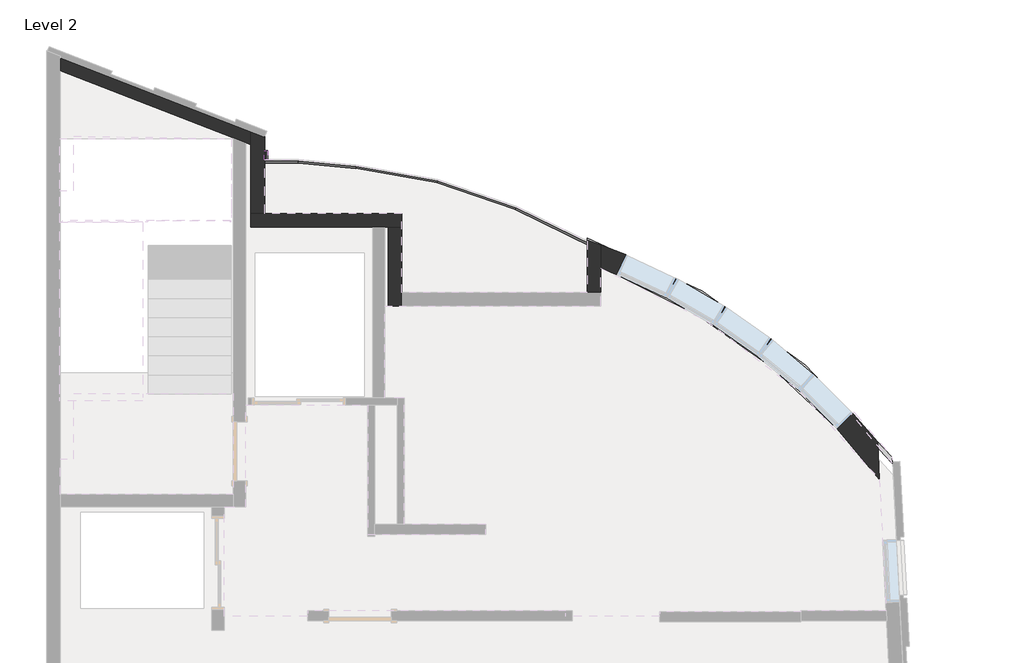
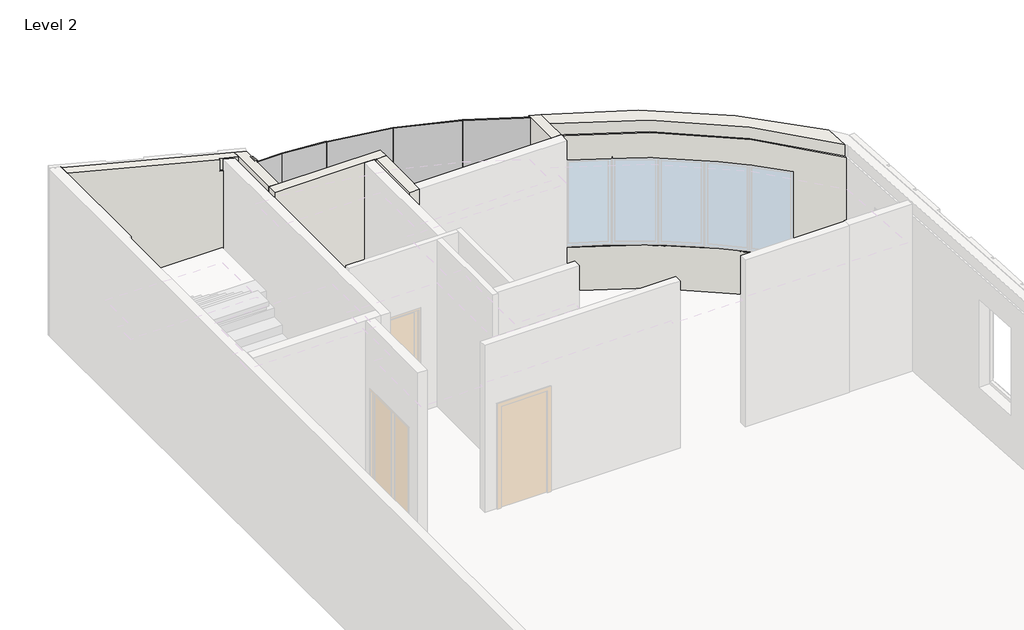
# One storey, part 4 of 5: 7 walls, 5 plates, 3 proxies.
"""IFC4 building model written with IfcOpenShell, lengths in millimetres."""

from ifc_helpers import new_model, si_unit, point, frame, frame_2d, origin, place, context, project, spatial, polyline, circle_curve, trimmed, segment, composite_curve, outline, extrude, faceted_brep, transform, mapped, element, save
from ifc_brep_helpers import plane_surface, cylinder_surface, revolved_surface, advanced_brep
from components import system_panel_glazed_224d79fb, system_panel_glazed_0fb09b64, system_panel_glazed_2140e779, system_panel_glazed_0c0ff7ba

model = new_model("IFC4")

# Units and contexts
model_context = context("Model", 3, world=origin())
ifc_project = project(units=[si_unit("LENGTHUNIT", "METRE", prefix="MILLI")], contexts=[model_context])

# Site, building, storey
site = spatial("IfcSite", under=ifc_project)
building = spatial("IfcBuilding", under=site)
storey = spatial("IfcBuildingStorey", under=building, Name="Level 2", Elevation=8000.0)

# Proxies
placement = place(None, origin())
element("IfcBuildingElementProxy", 1, Name="Reveal", ObjectType="Reveal", at=placement, inside=storey, context=model_context, shape_type="SweptSolid", body=[
    extrude(outline(composite_curve([segment(trimmed(circle_curve(frame_2d((4535.6080259, 3399.2748166)), 9525.0), [point((12124.5482533, 9155.45508))], [point((7662.3072504, 12396.4619859))], True, "CARTESIAN"), True, "CONTINUOUS"), segment(polyline([(7662.3072504, 12396.4619859), (7662.3072504, 12449.3785154)]), True, "CONTINUOUS"), segment(trimmed(circle_curve(frame_2d((4535.6080259, 3399.2748166)), 9575.0), [point((7662.3072504, 12449.3785154))], [point((12120.0590293, 9243.6505726))], False, "CARTESIAN"), True, "CONTINUOUS"), segment(polyline([(12120.0590293, 9243.6505726), (12124.5482533, 9155.45508)]), True, "CONTINUOUS")], self_intersect=False)), frame((0.0, 0.0, 8875.0), z_axis=(0.0, 0.0, 1.0), x_axis=(1.0, 0.0, 0.0)), (0.0, 0.0, 1.0), 50.0),
])
element("IfcBuildingElementProxy", 2, Name="Reveal", ObjectType="Reveal", at=placement, inside=storey, context=model_context, shape_type="SweptSolid", body=[
    extrude(outline(polyline([(2938.093022, 13732.1068799), (2988.093022, 13732.1068799), (2988.093022, 13599.3570533), (2938.093022, 13599.3570533), (2938.093022, 13732.1068799)])), frame((0.0, 0.0, 10635.0), z_axis=(0.0, 0.0, 1.0), x_axis=(1.0, 0.0, 0.0)), (0.0, 0.0, 1.0), 50.0),
])
element("IfcBuildingElementProxy", 3, Name="Reveal", ObjectType="Reveal", at=placement, inside=storey, context=model_context, shape_type="SweptSolid", body=[
    extrude(outline(polyline([(2938.093022, 13732.1068799), (2988.093022, 13732.1068799), (2988.093022, 13599.3570533), (2938.093022, 13599.3570533), (2938.093022, 13732.1068799)])), frame((0.0, 0.0, 8875.0), z_axis=(0.0, 0.0, 1.0), x_axis=(1.0, 0.0, 0.0)), (0.0, 0.0, 1.0), 50.0),
])

# Plates
system_panel_glazed_shape = system_panel_glazed_224d79fb(model_context)
element("IfcPlate", 4, ObjectType="System Panel : Glazed", at=placement, inside=storey, context=model_context, shape_type="MappedRepresentation", body=[
    mapped(system_panel_glazed_shape, transform((6054.0124771, 13110.8072352, 8000.0), x_axis=(-0.9455185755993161, 0.32556815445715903, 0.0), y_axis=(-0.32556815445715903, -0.9455185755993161, 0.0), z_axis=(0.0, 0.0, 1.0))),
])
element("IfcPlate", 5, ObjectType="System Panel : Glazed", at=placement, inside=storey, context=model_context, shape_type="MappedRepresentation", body=[
    mapped(system_panel_glazed_shape, transform((4876.5134167, 13415.3291978, 8000.0), x_axis=(-0.9848077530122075, 0.17364817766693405, 0.0), y_axis=(-0.17364817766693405, -0.9848077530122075, 0.0), z_axis=(0.0, 0.0, 1.0))),
])
system_panel_glazed_2_shape = system_panel_glazed_0fb09b64(model_context)
element("IfcPlate", 6, ObjectType="System Panel : Glazed", at=placement, inside=storey, context=model_context, shape_type="MappedRepresentation", body=[
    mapped(system_panel_glazed_2_shape, transform((3856.9795559, 13560.3058198, 8000.0), x_axis=(-0.9956808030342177, 0.09284254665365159, 0.0), y_axis=(-0.09284254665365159, -0.9956808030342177, 0.0), z_axis=(0.0, 0.0, 1.0))),
])
system_panel_glazed_3_shape = system_panel_glazed_2140e779(model_context)
element("IfcPlate", 7, ObjectType="System Panel : Glazed", at=placement, inside=storey, context=model_context, shape_type="MappedRepresentation", body=[
    mapped(system_panel_glazed_3_shape, transform((3189.0685843, 13599.3570533, 8000.0), x_axis=(-1.0, 0.0, 0.0), y_axis=(0.0, -1.0, 0.0), z_axis=(0.0, 0.0, 1.0))),
])
system_panel_glazed_4_shape = system_panel_glazed_0c0ff7ba(model_context)
element("IfcPlate", 8, ObjectType="System Panel : Glazed", at=placement, inside=storey, context=model_context, shape_type="MappedRepresentation", body=[
    mapped(system_panel_glazed_4_shape, transform((7196.5430293, 12636.269013, 8000.0), x_axis=(-0.8987940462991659, 0.43837114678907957, 0.0), y_axis=(-0.43837114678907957, -0.8987940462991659, 0.0), z_axis=(0.0, 0.0, 1.0))),
])

# Walls
element("IfcWall", 9, ObjectType="Generic - 20cm-gypsum-kamposite", at=placement, inside=storey, context=model_context, shape_type="AdvancedBrep", body=[
    advanced_brep(
    [(11908.3121492, 9469.3435074, 11500.0), (7862.3072504, 12351.1222388, 11500.0), (7862.3072504, 12041.0727933, 11500.0), (11933.8152789, 8968.3078963, 11500.0), (7862.3072504, 12351.1222388, 8000.0), (11908.3121492, 9469.3435074, 8000.0), (11936.5482631, 8914.6155682, 8000.0), (7862.3072504, 12008.9189597, 8000.0), (11908.3121492, 9469.3435074, 10745.0), (11544.8906493, 9885.6032931, 10745.0), (11544.8906493, 9885.6032931, 10730.0), (10356.3701317, 10970.353241, 10730.0), (10356.3701317, 10970.353241, 10745.0), (10349.7211648, 10975.4604273, 10745.0), (10349.7211648, 10975.4604273, 10730.0), (9682.5839736, 11443.5981936, 10730.0), (9682.5839736, 11443.5981936, 10745.0), (9675.5092952, 11448.1203824, 10745.0), (9675.5092952, 11448.1203824, 10730.0), (8970.5270255, 11857.0519163, 10730.0), (8970.5270255, 11857.0519163, 10745.0), (8958.907306, 11863.1346618, 10745.0), (8958.907306, 11863.1346618, 10730.0), (8221.1493402, 12209.4555878, 10730.0), (8221.1493402, 12209.4555878, 10745.0), (7862.3072504, 12351.1222388, 10745.0), (7862.3072504, 12351.1222388, 8875.0), (11908.3121492, 9469.3435074, 8875.0), (11908.3121492, 9469.3435074, 8925.0), (11544.8906493, 9885.6032931, 8925.0), (11544.8906493, 9885.6032931, 10695.0), (11908.3121492, 9469.3435074, 10695.0), (8221.1493402, 12209.4555878, 8925.0), (7862.3072504, 12351.1222388, 8925.0), (7862.3072504, 12351.1222388, 10695.0), (8221.1493402, 12209.4555878, 10695.0), (10356.3701317, 10970.353241, 8925.0), (10349.7211648, 10975.4604273, 8925.0), (10349.7211648, 10975.4604273, 10695.0), (10356.3701317, 10970.353241, 10695.0), (9682.5839736, 11443.5981936, 8925.0), (9675.5092952, 11448.1203824, 8925.0), (9675.5092952, 11448.1203824, 10695.0), (9682.5839736, 11443.5981936, 10695.0), (8970.5270255, 11857.0519163, 8925.0), (8958.907306, 11863.1346618, 8925.0), (8958.907306, 11863.1346618, 10695.0), (8970.5270255, 11857.0519163, 10695.0), (11936.5482631, 8914.6155682, 11259.0), (7862.3072504, 12008.9189597, 11259.0), (8085.0423074, 11919.5105106, 8900.0), (8085.0423074, 11919.5105106, 10730.0), (11319.3000133, 9658.2222537, 10730.0), (11319.3000133, 9658.2222537, 8900.0), (11910.4512496, 9427.3186475, 8875.0), (11910.4512496, 9427.3186475, 8925.0), (11910.4512496, 9427.3186475, 10695.0), (11910.4512496, 9427.3186475, 10745.0), (11933.8152789, 8968.3078963, 11259.0), (11527.266896, 9867.8396686, 10730.0), (11527.266896, 9867.8396686, 10695.0), (11527.266896, 9867.8396686, 8925.0), (11527.266896, 9867.8396686, 8900.0), (10335.3479854, 10954.9773917, 10730.0), (10293.8645813, 10895.8599189, 10730.0), (10340.2860207, 10951.1844014, 10730.0), (8210.516289, 12186.8042907, 10730.0), (8948.2742549, 11840.4833647, 10730.0), (8894.6346191, 11726.2163204, 10730.0), (8957.9716481, 11835.4069275, 10730.0), (9662.9539178, 11426.4753937, 10730.0), (9626.6451976, 11363.8805536, 10730.0), (9668.2107942, 11423.1151579, 10730.0), (10293.8645813, 10895.8599189, 8900.0), (10340.2860207, 10951.1844014, 8900.0), (10340.2860207, 10951.1844014, 8925.0), (10340.2860207, 10951.1844014, 10695.0), (10335.3479854, 10954.9773917, 8900.0), (9668.2107942, 11423.1151579, 8900.0), (9626.6451976, 11363.8805536, 8900.0), (9662.9539178, 11426.4753937, 8900.0), (8957.9716481, 11835.4069275, 8900.0), (8894.6346191, 11726.2163204, 8900.0), (8948.2742549, 11840.4833647, 8900.0), (8210.516289, 12186.8042907, 8900.0), (10335.3479854, 10954.9773917, 10695.0), (10335.3479854, 10954.9773917, 8925.0), (9668.2107942, 11423.1151579, 8925.0), (9668.2107942, 11423.1151579, 10695.0), (9662.9539178, 11426.4753937, 10695.0), (9662.9539178, 11426.4753937, 8925.0), (8957.9716481, 11835.4069275, 8925.0), (8957.9716481, 11835.4069275, 10695.0), (8948.2742549, 11840.4833647, 10695.0), (8948.2742549, 11840.4833647, 8925.0), (8210.516289, 12186.8042907, 8925.0), (8210.516289, 12186.8042907, 10695.0), (7862.3072504, 12041.0727933, 11259.0), (7862.3072504, 12324.4469309, 10745.0), (7862.3072504, 12324.4469309, 10695.0), (7862.3072504, 12324.4469309, 8925.0), (7862.3072504, 12324.4469309, 8875.0), (11527.266896, 9867.8396686, 10745.0), (8210.516289, 12186.8042907, 10745.0), (8957.9716481, 11835.4069275, 10745.0), (8948.2742549, 11840.4833647, 10745.0), (9668.2107942, 11423.1151579, 10745.0), (9662.9539178, 11426.4753937, 10745.0), (10340.2860207, 10951.1844014, 10745.0), (10335.3479854, 10954.9773917, 10745.0)],
    [
        (0, 1, circle_curve(frame((4535.6080259, 3399.2748166, 11500.0), z_axis=(0.0, 0.0, 1.0), x_axis=(0.7954529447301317, 0.6060153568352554, 0.0)), 9550.0)),
        (1, 2),
        (2, 3, circle_curve(frame((4535.6080259, 3399.2748166, 11500.0), z_axis=(0.0, 0.0, -1.0), x_axis=(1.0, 0.0, 0.0)), 9260.0)),
        (3, 0),
        (4, 5, circle_curve(frame((4535.6080259, 3399.2748166, 8000.0), z_axis=(0.0, 0.0, -1.0), x_axis=(0.7954529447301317, 0.6060153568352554, 0.0)), 9550.0)),
        (5, 6),
        (6, 7, circle_curve(frame((4535.6080259, 3399.2748166, 8000.0), z_axis=(0.0, 0.0, 1.0), x_axis=(0.7954529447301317, 0.6060153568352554, 0.0)), 9230.0)),
        (7, 4),
        (0, 8),
        (8, 9, circle_curve(frame((4535.6080259, 3399.2748166, 10745.0), z_axis=(0.0, 0.0, 1.0), x_axis=(0.7954529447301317, 0.6060153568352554, 0.0)), 9550.0)),
        (9, 10),
        (10, 11, circle_curve(frame((4535.6080259, 3399.2748166, 10730.0), z_axis=(0.0, 0.0, 1.0), x_axis=(0.7954529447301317, 0.6060153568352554, 0.0)), 9550.0)),
        (11, 12),
        (12, 13, circle_curve(frame((4535.6080259, 3399.2748166, 10745.0), z_axis=(0.0, 0.0, 1.0), x_axis=(0.7954529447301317, 0.6060153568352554, 0.0)), 9550.0)),
        (13, 14),
        (14, 15, circle_curve(frame((4535.6080259, 3399.2748166, 10730.0), z_axis=(0.0, 0.0, 1.0), x_axis=(0.7954529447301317, 0.6060153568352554, 0.0)), 9550.0)),
        (15, 16),
        (16, 17, circle_curve(frame((4535.6080259, 3399.2748166, 10745.0), z_axis=(0.0, 0.0, 1.0), x_axis=(0.7954529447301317, 0.6060153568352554, 0.0)), 9550.0)),
        (17, 18),
        (18, 19, circle_curve(frame((4535.6080259, 3399.2748166, 10730.0), z_axis=(0.0, 0.0, 1.0), x_axis=(0.7954529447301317, 0.6060153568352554, 0.0)), 9550.0)),
        (19, 20),
        (20, 21, circle_curve(frame((4535.6080259, 3399.2748166, 10745.0), z_axis=(0.0, 0.0, 1.0), x_axis=(0.7954529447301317, 0.6060153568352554, 0.0)), 9550.0)),
        (21, 22),
        (22, 23, circle_curve(frame((4535.6080259, 3399.2748166, 10730.0), z_axis=(0.0, 0.0, 1.0), x_axis=(0.7954529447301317, 0.6060153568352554, 0.0)), 9550.0)),
        (23, 24),
        (24, 25, circle_curve(frame((4535.6080259, 3399.2748166, 10745.0), z_axis=(0.0, 0.0, 1.0), x_axis=(0.7954529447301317, 0.6060153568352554, 0.0)), 9550.0)),
        (25, 1),
        (4, 26),
        (26, 27, circle_curve(frame((4535.6080259, 3399.2748166, 8875.0), z_axis=(0.0, 0.0, -1.0), x_axis=(0.7954529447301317, 0.6060153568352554, 0.0)), 9550.0)),
        (27, 5),
        (28, 29, circle_curve(frame((4535.6080259, 3399.2748166, 8925.0), z_axis=(0.0, 0.0, 1.0), x_axis=(0.7954529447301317, 0.6060153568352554, 0.0)), 9550.0)),
        (29, 30),
        (30, 31, circle_curve(frame((4535.6080259, 3399.2748166, 10695.0), z_axis=(0.0, 0.0, -1.0), x_axis=(0.7954529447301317, 0.6060153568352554, 0.0)), 9550.0)),
        (31, 28),
        (32, 33, circle_curve(frame((4535.6080259, 3399.2748166, 8925.0), z_axis=(0.0, 0.0, 1.0), x_axis=(0.7954529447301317, 0.6060153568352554, 0.0)), 9550.0)),
        (33, 34),
        (34, 35, circle_curve(frame((4535.6080259, 3399.2748166, 10695.0), z_axis=(0.0, 0.0, -1.0), x_axis=(0.7954529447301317, 0.6060153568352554, 0.0)), 9550.0)),
        (35, 32),
        (36, 37, circle_curve(frame((4535.6080259, 3399.2748166, 8925.0), z_axis=(0.0, 0.0, 1.0), x_axis=(0.7954529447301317, 0.6060153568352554, 0.0)), 9550.0)),
        (37, 38),
        (38, 39, circle_curve(frame((4535.6080259, 3399.2748166, 10695.0), z_axis=(0.0, 0.0, -1.0), x_axis=(0.7954529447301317, 0.6060153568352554, 0.0)), 9550.0)),
        (39, 36),
        (40, 41, circle_curve(frame((4535.6080259, 3399.2748166, 8925.0), z_axis=(0.0, 0.0, 1.0), x_axis=(0.7954529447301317, 0.6060153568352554, 0.0)), 9550.0)),
        (41, 42),
        (42, 43, circle_curve(frame((4535.6080259, 3399.2748166, 10695.0), z_axis=(0.0, 0.0, -1.0), x_axis=(0.7954529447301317, 0.6060153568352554, 0.0)), 9550.0)),
        (43, 40),
        (44, 45, circle_curve(frame((4535.6080259, 3399.2748166, 8925.0), z_axis=(0.0, 0.0, 1.0), x_axis=(0.7954529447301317, 0.6060153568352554, 0.0)), 9550.0)),
        (45, 46),
        (46, 47, circle_curve(frame((4535.6080259, 3399.2748166, 10695.0), z_axis=(0.0, 0.0, -1.0), x_axis=(0.7954529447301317, 0.6060153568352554, 0.0)), 9550.0)),
        (47, 44),
        (6, 48),
        (48, 49, circle_curve(frame((4535.6080259, 3399.2748166, 11259.0), z_axis=(0.0, 0.0, 1.0), x_axis=(0.7954529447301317, 0.6060153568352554, 0.0)), 9230.0)),
        (49, 7),
        (50, 51),
        (51, 52, circle_curve(frame((4535.6080259, 3399.2748166, 10730.0), z_axis=(0.0, 0.0, -1.0), x_axis=(0.7954529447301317, 0.6060153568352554, 0.0)), 9230.0)),
        (52, 53),
        (53, 50, circle_curve(frame((4535.6080259, 3399.2748166, 8900.0), z_axis=(0.0, 0.0, 1.0), x_axis=(0.7954529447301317, 0.6060153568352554, 0.0)), 9230.0)),
        (27, 54),
        (54, 55),
        (55, 28),
        (31, 56),
        (56, 57),
        (57, 8),
        (3, 58),
        (58, 48),
        (52, 59),
        (59, 60),
        (60, 30),
        (29, 61),
        (61, 62),
        (62, 53),
        (14, 63),
        (63, 64),
        (64, 65),
        (65, 11),
        (10, 59),
        (51, 66),
        (66, 23),
        (22, 67),
        (67, 68),
        (68, 69),
        (69, 19),
        (18, 70),
        (70, 71),
        (71, 72),
        (72, 15),
        (64, 73),
        (73, 74),
        (74, 75),
        (75, 36),
        (39, 76),
        (76, 65),
        (62, 74, circle_curve(frame((4535.6080259, 3399.2748166, 8900.0), z_axis=(0.0, 0.0, 1.0), x_axis=(0.32740306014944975, 0.9448847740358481, 0.0)), 9525.0)),
        (73, 77),
        (77, 78, circle_curve(frame((4535.6080259, 3399.2748166, 8900.0), z_axis=(0.0, 0.0, 1.0), x_axis=(0.32740306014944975, 0.9448847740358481, 0.0)), 9525.0)),
        (78, 79),
        (79, 80),
        (80, 81, circle_curve(frame((4535.6080259, 3399.2748166, 8900.0), z_axis=(0.0, 0.0, 1.0), x_axis=(0.32740306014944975, 0.9448847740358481, 0.0)), 9525.0)),
        (81, 82),
        (82, 83),
        (83, 84, circle_curve(frame((4535.6080259, 3399.2748166, 8900.0), z_axis=(0.0, 0.0, 1.0), x_axis=(0.32740306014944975, 0.9448847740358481, 0.0)), 9525.0)),
        (84, 50),
        (63, 85),
        (85, 38),
        (37, 86),
        (86, 77),
        (71, 79),
        (78, 87),
        (87, 40),
        (43, 88),
        (88, 72),
        (70, 89),
        (89, 42),
        (41, 90),
        (90, 80),
        (68, 82),
        (81, 91),
        (91, 44),
        (47, 92),
        (92, 69),
        (67, 93),
        (93, 46),
        (45, 94),
        (94, 83),
        (84, 95),
        (95, 32),
        (35, 96),
        (96, 66),
        (49, 97),
        (97, 2),
        (25, 98),
        (98, 99),
        (99, 34),
        (33, 100),
        (100, 101),
        (101, 26),
        (55, 61, circle_curve(frame((4535.6080259, 3399.2748166, 8925.0), z_axis=(0.0, 0.0, 1.0), x_axis=(0.32740306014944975, 0.9448847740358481, 0.0)), 9525.0)),
        (95, 100, circle_curve(frame((4535.6080259, 3399.2748166, 8925.0), z_axis=(0.0, 0.0, 1.0), x_axis=(0.32740306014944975, 0.9448847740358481, 0.0)), 9525.0)),
        (75, 86, circle_curve(frame((4535.6080259, 3399.2748166, 8925.0), z_axis=(0.0, 0.0, 1.0), x_axis=(0.32740306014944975, 0.9448847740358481, 0.0)), 9525.0)),
        (87, 90, circle_curve(frame((4535.6080259, 3399.2748166, 8925.0), z_axis=(0.0, 0.0, 1.0), x_axis=(0.32740306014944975, 0.9448847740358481, 0.0)), 9525.0)),
        (91, 94, circle_curve(frame((4535.6080259, 3399.2748166, 8925.0), z_axis=(0.0, 0.0, 1.0), x_axis=(0.32740306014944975, 0.9448847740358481, 0.0)), 9525.0)),
        (101, 54, circle_curve(frame((4535.6080259, 3399.2748166, 8875.0), z_axis=(0.0, 0.0, -1.0), x_axis=(0.32740306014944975, 0.9448847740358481, 0.0)), 9525.0)),
        (57, 102, circle_curve(frame((4535.6080259, 3399.2748166, 10745.0), z_axis=(0.0, 0.0, 1.0), x_axis=(0.7339562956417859, 0.6791966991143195, 0.0)), 9525.0)),
        (102, 9),
        (60, 56, circle_curve(frame((4535.6080259, 3399.2748166, 10695.0), z_axis=(0.0, 0.0, -1.0), x_axis=(0.7339562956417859, 0.6791966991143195, 0.0)), 9525.0)),
        (59, 102),
        (24, 103),
        (103, 98, circle_curve(frame((4535.6080259, 3399.2748166, 10745.0), z_axis=(0.0, 0.0, 1.0), x_axis=(0.32740306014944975, 0.9448847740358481, 0.0)), 9525.0)),
        (99, 96, circle_curve(frame((4535.6080259, 3399.2748166, 10695.0), z_axis=(0.0, 0.0, -1.0), x_axis=(0.32740306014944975, 0.9448847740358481, 0.0)), 9525.0)),
        (103, 66),
        (104, 105, circle_curve(frame((4535.6080259, 3399.2748166, 10745.0), z_axis=(0.0, 0.0, 1.0), x_axis=(0.4631726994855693, 0.8862680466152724, 0.0)), 9525.0)),
        (105, 21),
        (20, 104),
        (93, 92, circle_curve(frame((4535.6080259, 3399.2748166, 10695.0), z_axis=(0.0, 0.0, -1.0), x_axis=(0.4631726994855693, 0.8862680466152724, 0.0)), 9525.0)),
        (104, 69),
        (67, 105),
        (106, 107, circle_curve(frame((4535.6080259, 3399.2748166, 10745.0), z_axis=(0.0, 0.0, 1.0), x_axis=(0.5382095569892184, 0.8428110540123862, 0.0)), 9525.0)),
        (107, 17),
        (16, 106),
        (89, 88, circle_curve(frame((4535.6080259, 3399.2748166, 10695.0), z_axis=(0.0, 0.0, -1.0), x_axis=(0.5382095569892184, 0.8428110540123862, 0.0)), 9525.0)),
        (106, 72),
        (70, 107),
        (108, 109, circle_curve(frame((4535.6080259, 3399.2748166, 10745.0), z_axis=(0.0, 0.0, 1.0), x_axis=(0.6088076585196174, 0.7933178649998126, 0.0)), 9525.0)),
        (109, 13),
        (12, 108),
        (85, 76, circle_curve(frame((4535.6080259, 3399.2748166, 10695.0), z_axis=(0.0, 0.0, -1.0), x_axis=(0.6088076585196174, 0.7933178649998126, 0.0)), 9525.0)),
        (108, 65),
        (63, 109),
        (58, 97, circle_curve(frame((4535.6080259, 3399.2748166, 11259.0), z_axis=(0.0, 0.0, 1.0), x_axis=(1.0, 0.0, 0.0)), 9260.0)),
    ],
    [
        plane_surface(frame((12132.1836481, 9186.7214744, 11500.0), z_axis=(0.0, 0.0, 1.0), x_axis=(-0.6060153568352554, 0.7954529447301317, 0.0))),
        plane_surface(frame((12132.1836481, 9186.7214744, 8000.0), z_axis=(0.0, 0.0, -1.0), x_axis=(0.6060153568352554, -0.7954529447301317, 0.0))),
        cylinder_surface(frame((4535.6080259, 3399.2748166, 8000.0), z_axis=(0.0, 0.0, 1.0), x_axis=(0.7954529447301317, 0.6060153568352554, 0.0)), 9550.0),
        revolved_surface(polyline([(11877.638705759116, 8992.796560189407, 8000.0), (11877.638705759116, 8992.796560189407, 11259.0)]), (4535.6080259, 3399.2748166, 8000.0), (0.0, 0.0, -1.0)),
        plane_surface(frame((11929.5360205, 9052.3783941, 8000.0), z_axis=(0.9987070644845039, 0.05083502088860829, 0.0), x_axis=(0.05083502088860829, -0.9987070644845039, 0.0))),
        plane_surface(frame((10471.5277129, 8803.721596, 8900.0), z_axis=(-0.7098961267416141, 0.7043063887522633, 0.0), x_axis=(0.7043063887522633, 0.7098961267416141, 0.0))),
        plane_surface(frame((10001.1116007, 9279.0246578, 10730.0), z_axis=(0.0, 0.0, -1.0), x_axis=(0.6427769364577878, 0.7660533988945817, 0.0))),
        plane_surface(frame((9376.7780806, 9802.887861, 10730.0), z_axis=(0.7660533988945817, -0.6427769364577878, 0.0), x_axis=(0.6427769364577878, 0.7660533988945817, 0.0))),
        plane_surface(frame((9376.7780806, 9802.887861, 8900.0), z_axis=(0.0, 0.0, 1.0), x_axis=(0.6427769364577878, 0.7660533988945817, 0.0))),
        plane_surface(frame((9474.332262, 9727.9548086, 8900.0), z_axis=(-0.8185732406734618, 0.5744021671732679, 0.0), x_axis=(0.5744021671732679, 0.8185732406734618, 0.0))),
        plane_surface(frame((8807.1950709, 10196.0925748, 10730.0), z_axis=(0.8185732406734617, -0.574402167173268, 0.0), x_axis=(0.574402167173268, 0.8185732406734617, 0.0))),
        plane_surface(frame((8910.8324147, 10129.8467885, 8900.0), z_axis=(-0.8650089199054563, 0.5017564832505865, 0.0), x_axis=(0.5017564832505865, 0.8650089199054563, 0.0))),
        plane_surface(frame((8205.850145, 10538.7783223, 10730.0), z_axis=(0.8650089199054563, -0.5017564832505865, 0.0), x_axis=(0.5017564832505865, 0.8650089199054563, 0.0))),
        plane_surface(frame((8311.308421, 10483.5725268, 8900.0), z_axis=(-0.9052244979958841, 0.42493365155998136, 0.0), x_axis=(0.42493365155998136, 0.9052244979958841, 0.0))),
        plane_surface(frame((7573.5504552, 10829.8934528, 10730.0), z_axis=(0.9052244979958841, -0.42493365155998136, 0.0), x_axis=(0.42493365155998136, 0.9052244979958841, 0.0))),
        plane_surface(frame((7862.3072504, 12316.4556234, 8000.0), z_axis=(-1.0, 0.0, 0.0), x_axis=(0.0, 1.0, 0.0))),
        plane_surface(frame((4535.6080259, 3399.2748166, 8925.0), z_axis=(0.0, 0.0, -1.0), x_axis=(0.32740306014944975, 0.9448847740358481, 0.0))),
        plane_surface(frame((4535.6080259, 3399.2748166, 8875.0), z_axis=(0.0, 0.0, 1.0), x_axis=(0.32740306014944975, 0.9448847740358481, 0.0))),
        cylinder_surface(frame((4535.6080259, 3399.2748166, 8900.0), z_axis=(0.0, 0.0, -1.0), x_axis=(0.32740306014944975, 0.9448847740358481, 0.0)), 9525.0),
        plane_surface(frame((4535.6080259, 3399.2748166, 10745.0), z_axis=(0.0, 0.0, -1.0), x_axis=(0.7339562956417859, 0.6791966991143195, 0.0))),
        plane_surface(frame((4535.6080259, 3399.2748166, 10695.0), z_axis=(0.0, 0.0, 1.0), x_axis=(0.7339562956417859, 0.6791966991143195, 0.0))),
        cylinder_surface(frame((4535.6080259, 3399.2748166, 10720.0), z_axis=(0.0, 0.0, -1.0), x_axis=(0.7339562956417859, 0.6791966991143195, 0.0)), 9525.0),
        plane_surface(frame((4535.6080259, 3399.2748166, 10745.0), z_axis=(0.0, 0.0, -1.0), x_axis=(0.32740306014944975, 0.9448847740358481, 0.0))),
        plane_surface(frame((4535.6080259, 3399.2748166, 10695.0), z_axis=(0.0, 0.0, 1.0), x_axis=(0.32740306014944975, 0.9448847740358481, 0.0))),
        cylinder_surface(frame((4535.6080259, 3399.2748166, 10720.0), z_axis=(0.0, 0.0, -1.0), x_axis=(0.32740306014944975, 0.9448847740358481, 0.0)), 9525.0),
        plane_surface(frame((7573.5504552, 10829.8934528, 10730.0), z_axis=(-0.9052244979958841, 0.42493365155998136, 0.0), x_axis=(0.42493365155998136, 0.9052244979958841, 0.0))),
        plane_surface(frame((4535.6080259, 3399.2748166, 10745.0), z_axis=(0.0, 0.0, -1.0), x_axis=(0.4631726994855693, 0.8862680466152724, 0.0))),
        plane_surface(frame((4535.6080259, 3399.2748166, 10695.0), z_axis=(0.0, 0.0, 1.0), x_axis=(0.4631726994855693, 0.8862680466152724, 0.0))),
        cylinder_surface(frame((4535.6080259, 3399.2748166, 10720.0), z_axis=(0.0, 0.0, -1.0), x_axis=(0.4631726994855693, 0.8862680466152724, 0.0)), 9525.0),
        plane_surface(frame((8311.308421, 10483.5725268, 8900.0), z_axis=(0.9052244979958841, -0.42493365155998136, 0.0), x_axis=(0.42493365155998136, 0.9052244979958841, 0.0))),
        plane_surface(frame((8205.850145, 10538.7783223, 10730.0), z_axis=(-0.8650089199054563, 0.5017564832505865, 0.0), x_axis=(0.5017564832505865, 0.8650089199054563, 0.0))),
        plane_surface(frame((4535.6080259, 3399.2748166, 10745.0), z_axis=(0.0, 0.0, -1.0), x_axis=(0.5382095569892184, 0.8428110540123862, 0.0))),
        plane_surface(frame((4535.6080259, 3399.2748166, 10695.0), z_axis=(0.0, 0.0, 1.0), x_axis=(0.5382095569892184, 0.8428110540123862, 0.0))),
        cylinder_surface(frame((4535.6080259, 3399.2748166, 10720.0), z_axis=(0.0, 0.0, -1.0), x_axis=(0.5382095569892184, 0.8428110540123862, 0.0)), 9525.0),
        plane_surface(frame((8910.8324147, 10129.8467885, 8900.0), z_axis=(0.8650089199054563, -0.5017564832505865, 0.0), x_axis=(0.5017564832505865, 0.8650089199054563, 0.0))),
        plane_surface(frame((8807.1950709, 10196.0925748, 10730.0), z_axis=(-0.8185732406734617, 0.574402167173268, 0.0), x_axis=(0.574402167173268, 0.8185732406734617, 0.0))),
        plane_surface(frame((4535.6080259, 3399.2748166, 10745.0), z_axis=(0.0, 0.0, -1.0), x_axis=(0.6088076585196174, 0.7933178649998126, 0.0))),
        plane_surface(frame((4535.6080259, 3399.2748166, 10695.0), z_axis=(0.0, 0.0, 1.0), x_axis=(0.6088076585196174, 0.7933178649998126, 0.0))),
        cylinder_surface(frame((4535.6080259, 3399.2748166, 10720.0), z_axis=(0.0, 0.0, -1.0), x_axis=(0.6088076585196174, 0.7933178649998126, 0.0)), 9525.0),
        plane_surface(frame((9474.332262, 9727.9548086, 8900.0), z_axis=(0.8185732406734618, -0.5744021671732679, 0.0), x_axis=(0.5744021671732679, 0.8185732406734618, 0.0))),
        plane_surface(frame((9376.7780806, 9802.887861, 10730.0), z_axis=(-0.7660533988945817, 0.6427769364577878, 0.0), x_axis=(0.6427769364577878, 0.7660533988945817, 0.0))),
        plane_surface(frame((10471.5277129, 8803.721596, 8900.0), z_axis=(0.7098961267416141, -0.7043063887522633, 0.0), x_axis=(0.7043063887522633, 0.7098961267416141, 0.0))),
        plane_surface(frame((-80.0421304, 14944.8648867, 11259.0), z_axis=(0.0, 0.0, 1.0), x_axis=(0.9323005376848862, -0.36168454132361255, 0.0))),
        revolved_surface(polyline([(13795.608025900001, 3399.2748166, 11259.0), (13795.608025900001, 3399.2748166, 11500.0)]), (4535.6080259, 3399.2748166, 11500.0), (0.0, 0.0, -1.0)),
    ],
    [
        (0, [[1, 2, 3, 4]]),
        (1, [[5, 6, 7, 8]]),
        (2, [[-1, 9, 10, 11, 12, 13, 14, 15, 16, 17, 18, 19, 20, 21, 22, 23, 24, 25, 26, 27]]),
        (2, [[-5, 28, 29, 30]]),
        (2, [[31, 32, 33, 34]]),
        (2, [[35, 36, 37, 38]]),
        (2, [[39, 40, 41, 42]]),
        (2, [[43, 44, 45, 46]]),
        (2, [[47, 48, 49, 50]]),
        (3, [[-7, 51, 52, 53], [54, 55, 56, 57]]),
        (4, [[-6, -30, 58, 59, 60, -34, 61, 62, 63, -9, -4, 64, 65, -51]]),
        (5, [[-56, 66, 67, 68, -32, 69, 70, 71]]),
        (6, [[-16, 72, 73, 74, 75, -12, 76, -66, -55, 77, 78, -24, 79, 80, 81, 82, -20, 83, 84, 85, 86]]),
        (7, [[87, 88, 89, 90, -42, 91, 92, -74]]),
        (8, [[-57, -71, 93, -88, 94, 95, 96, 97, 98, 99, 100, 101, 102]]),
        (9, [[-87, -73, 103, 104, -40, 105, 106, -94]]),
        (10, [[107, -96, 108, 109, -46, 110, 111, -85]]),
        (11, [[-107, -84, 112, 113, -44, 114, 115, -97]]),
        (12, [[116, -99, 117, 118, -50, 119, 120, -81]]),
        (13, [[-116, -80, 121, 122, -48, 123, 124, -100]]),
        (14, [[-54, -102, 125, 126, -38, 127, 128, -77]]),
        (15, [[-8, -53, 129, 130, -2, -27, 131, 132, 133, -36, 134, 135, 136, -28]]),
        (16, [[137, -69, -31, -60]]),
        (16, [[-134, -35, -126, 138]]),
        (16, [[139, -105, -39, -90]]),
        (16, [[140, -114, -43, -109]]),
        (16, [[141, -123, -47, -118]]),
        (17, [[142, -58, -29, -136]]),
        (18, [[-137, -59, -142, -135, -138, -125, -101, -124, -141, -117, -98, -115, -140, -108, -95, -106, -139, -89, -93, -70]]),
        (19, [[143, 144, -10, -63]]),
        (20, [[145, -61, -33, -68]]),
        (21, [[-143, -62, -145, -67, 146]]),
        (22, [[147, 148, -131, -26]]),
        (23, [[149, -127, -37, -133]]),
        (24, [[150, -128, -149, -132, -148]]),
        (25, [[-150, -147, -25, -78]]),
        (26, [[151, 152, -22, 153]]),
        (27, [[154, -119, -49, -122]]),
        (28, [[-151, 155, -120, -154, -121, 156]]),
        (29, [[-156, -79, -23, -152]]),
        (30, [[-155, -153, -21, -82]]),
        (31, [[157, 158, -18, 159]]),
        (32, [[160, -110, -45, -113]]),
        (33, [[-157, 161, -111, -160, -112, 162]]),
        (34, [[-162, -83, -19, -158]]),
        (35, [[-161, -159, -17, -86]]),
        (36, [[163, 164, -14, 165]]),
        (37, [[166, -91, -41, -104]]),
        (38, [[-163, 167, -92, -166, -103, 168]]),
        (39, [[-168, -72, -15, -164]]),
        (40, [[-167, -165, -13, -75]]),
        (41, [[-146, -76, -11, -144]]),
        (42, [[169, -129, -52, -65]]),
        (43, [[-169, -64, -3, -130]]),
    ],
),
])
element("IfcWall", 10, ObjectType="kamposite5cm", at=placement, inside=storey, context=model_context, shape_type="Brep", body=[
    faceted_brep([(2913.093022, 13751.504302, 8000.0), (2913.093022, 13599.3570533, 8000.0), (2913.093022, 13599.3570533, 11500.0), (2913.093022, 13751.504302, 11500.0), (2963.093022, 13599.3570533, 8000.0), (2963.093022, 13732.1068799, 8000.0), (2963.093022, 13732.1068799, 8875.0), (2963.093022, 13599.3570533, 8875.0), (2963.093022, 13732.1068799, 11500.0), (2963.093022, 13599.3570533, 11500.0), (2963.093022, 13599.3570533, 10685.0), (2963.093022, 13732.1068799, 10685.0), (2963.093022, 13732.1068799, 10635.0), (2963.093022, 13599.3570533, 10635.0), (2963.093022, 13599.3570533, 8925.0), (2963.093022, 13732.1068799, 8925.0), (2938.093022, 13599.3570533, 8875.0), (2938.093022, 13599.3570533, 8925.0), (2938.093022, 13599.3570533, 10635.0), (2938.093022, 13599.3570533, 10685.0), (2938.093022, 13732.1068799, 10685.0), (2938.093022, 13732.1068799, 10635.0), (2938.093022, 13732.1068799, 8925.0), (2938.093022, 13732.1068799, 8875.0)], [[[0, 1, 2, 3]], [[4, 5, 6, 7]], [[8, 9, 10, 11]], [[12, 13, 14, 15]], [[1, 0, 5, 4]], [[2, 1, 4, 7, 16, 17, 14, 13, 18, 19, 10, 9]], [[3, 2, 9, 8]], [[20, 21, 12, 11]], [[19, 20, 11, 10]], [[21, 18, 13, 12]], [[21, 20, 19, 18]], [[22, 23, 6, 15]], [[17, 22, 15, 14]], [[23, 16, 7, 6]], [[23, 22, 17, 16]], [[0, 3, 8, 11, 12, 15, 6, 5]]]),
])
element("IfcWall", 11, ObjectType="Generic - 20cm-gypsum", at=placement, inside=storey, context=model_context, shape_type="AdvancedBrep", body=[
    advanced_brep(
    [(7862.3072504, 11654.5991251, 8000.0), (7862.3072504, 12008.9189597, 8000.0), (7862.3072504, 12351.1222388, 8000.0), (7862.3072504, 12351.1222388, 8875.0), (7862.3072504, 12324.4469309, 8875.0), (7862.3072504, 12324.4469309, 8925.0), (7862.3072504, 12351.1222388, 8925.0), (7862.3072504, 12351.1222388, 10695.0), (7862.3072504, 12324.4469309, 10695.0), (7862.3072504, 12324.4469309, 10745.0), (7862.3072504, 12351.1222388, 10745.0), (7862.3072504, 12351.1222388, 11500.0), (7862.3072504, 12041.0727933, 11500.0), (7862.3072504, 11654.5991251, 11500.0), (7662.3072504, 12422.9244086, 8000.0), (7662.3072504, 11654.5991251, 8000.0), (7662.3072504, 11654.5991251, 11500.0), (7662.3072504, 12422.9244086, 11500.0), (7662.3072504, 12422.9244086, 10745.0), (7662.3072504, 12396.4619859, 10745.0), (7662.3072504, 12396.4619859, 10695.0), (7662.3072504, 12422.9244086, 10695.0), (7662.3072504, 12422.9244086, 8925.0), (7662.3072504, 12396.4619859, 8925.0), (7662.3072504, 12396.4619859, 8875.0), (7662.3072504, 12422.9244086, 8875.0)],
    [
        (0, 1),
        (1, 2),
        (2, 3),
        (3, 4),
        (4, 5),
        (5, 6),
        (6, 7),
        (7, 8),
        (8, 9),
        (9, 10),
        (10, 11),
        (11, 12),
        (12, 13),
        (13, 0),
        (14, 15),
        (15, 16),
        (16, 17),
        (17, 18),
        (18, 19),
        (19, 20),
        (20, 21),
        (21, 22),
        (22, 23),
        (23, 24),
        (24, 25),
        (25, 14),
        (0, 15),
        (14, 2, circle_curve(frame((4535.6080259, 3399.2748166, 8000.0), z_axis=(0.0, 0.0, -1.0), x_axis=(0.7954529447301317, 0.6060153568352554, 0.0)), 9550.0)),
        (11, 17, circle_curve(frame((4535.6080259, 3399.2748166, 11500.0), z_axis=(0.0, 0.0, 1.0), x_axis=(0.7954529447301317, 0.6060153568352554, 0.0)), 9550.0)),
        (16, 13),
        (25, 3, circle_curve(frame((4535.6080259, 3399.2748166, 8875.0), z_axis=(0.0, 0.0, -1.0), x_axis=(0.7954529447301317, 0.6060153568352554, 0.0)), 9550.0)),
        (10, 18, circle_curve(frame((4535.6080259, 3399.2748166, 10745.0), z_axis=(0.0, 0.0, 1.0), x_axis=(0.7954529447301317, 0.6060153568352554, 0.0)), 9550.0)),
        (6, 22, circle_curve(frame((4535.6080259, 3399.2748166, 8925.0), z_axis=(0.0, 0.0, 1.0), x_axis=(0.7954529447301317, 0.6060153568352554, 0.0)), 9550.0)),
        (21, 7, circle_curve(frame((4535.6080259, 3399.2748166, 10695.0), z_axis=(0.0, 0.0, -1.0), x_axis=(0.7954529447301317, 0.6060153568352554, 0.0)), 9550.0)),
        (5, 23, circle_curve(frame((4535.6080259, 3399.2748166, 8925.0), z_axis=(0.0, 0.0, 1.0), x_axis=(0.32740306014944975, 0.9448847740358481, 0.0)), 9525.0)),
        (24, 4, circle_curve(frame((4535.6080259, 3399.2748166, 8875.0), z_axis=(0.0, 0.0, -1.0), x_axis=(0.32740306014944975, 0.9448847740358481, 0.0)), 9525.0)),
        (9, 19, circle_curve(frame((4535.6080259, 3399.2748166, 10745.0), z_axis=(0.0, 0.0, 1.0), x_axis=(0.32740306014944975, 0.9448847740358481, 0.0)), 9525.0)),
        (20, 8, circle_curve(frame((4535.6080259, 3399.2748166, 10695.0), z_axis=(0.0, 0.0, -1.0), x_axis=(0.32740306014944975, 0.9448847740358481, 0.0)), 9525.0)),
    ],
    [
        plane_surface(frame((7862.3072504, 12316.4556234, 8000.0), z_axis=(1.0, 0.0, 0.0), x_axis=(0.0, 1.0, 0.0))),
        plane_surface(frame((7662.3072504, 12316.4556234, 8000.0), z_axis=(-1.0, 0.0, 0.0), x_axis=(0.0, -1.0, 0.0))),
        plane_surface(frame((7862.3072504, 11554.5991251, 8000.0), z_axis=(0.0, 0.0, -1.0), x_axis=(-1.0, 0.0, 0.0))),
        plane_surface(frame((7862.3072504, 12217.4669281, 11500.0), z_axis=(0.0, 0.0, 1.0), x_axis=(-1.0, 0.0, 0.0))),
        plane_surface(frame((7749.728271, 11654.5991251, 8000.0), z_axis=(0.0, -1.0, 0.0), x_axis=(-1.0, 0.0, 0.0))),
        cylinder_surface(frame((4535.6080259, 3399.2748166, 8000.0), z_axis=(0.0, 0.0, 1.0), x_axis=(0.7954529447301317, 0.6060153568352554, 0.0)), 9550.0),
        plane_surface(frame((4535.6080259, 3399.2748166, 8925.0), z_axis=(0.0, 0.0, -1.0), x_axis=(0.32740306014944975, 0.9448847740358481, 0.0))),
        plane_surface(frame((4535.6080259, 3399.2748166, 8875.0), z_axis=(0.0, 0.0, 1.0), x_axis=(0.32740306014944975, 0.9448847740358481, 0.0))),
        cylinder_surface(frame((4535.6080259, 3399.2748166, 8900.0), z_axis=(0.0, 0.0, -1.0), x_axis=(0.32740306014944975, 0.9448847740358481, 0.0)), 9525.0),
        plane_surface(frame((4535.6080259, 3399.2748166, 10745.0), z_axis=(0.0, 0.0, -1.0), x_axis=(0.32740306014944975, 0.9448847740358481, 0.0))),
        plane_surface(frame((4535.6080259, 3399.2748166, 10695.0), z_axis=(0.0, 0.0, 1.0), x_axis=(0.32740306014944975, 0.9448847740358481, 0.0))),
        cylinder_surface(frame((4535.6080259, 3399.2748166, 10720.0), z_axis=(0.0, 0.0, -1.0), x_axis=(0.32740306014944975, 0.9448847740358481, 0.0)), 9525.0),
    ],
    [
        (0, [[1, 2, 3, 4, 5, 6, 7, 8, 9, 10, 11, 12, 13, 14]]),
        (1, [[15, 16, 17, 18, 19, 20, 21, 22, 23, 24, 25, 26]]),
        (2, [[-2, -1, 27, -15, 28]]),
        (3, [[-13, -12, 29, -17, 30]]),
        (4, [[-14, -30, -16, -27]]),
        (5, [[-28, -26, 31, -3]]),
        (5, [[-29, -11, 32, -18]]),
        (5, [[33, -22, 34, -7]]),
        (6, [[35, -23, -33, -6]]),
        (7, [[36, -4, -31, -25]]),
        (8, [[-35, -5, -36, -24]]),
        (9, [[37, -19, -32, -10]]),
        (10, [[38, -8, -34, -21]]),
        (11, [[-37, -9, -38, -20]]),
    ],
),
])
element("IfcWall", 12, ObjectType="Generic - 20cm-gypsum", at=placement, inside=storey, context=model_context, shape_type="Brep", body=[
    faceted_brep([(-50.0421304, 14901.0479686, 8000.0), (2481.8607589, 13918.8001868, 8000.0), (2661.8607589, 13848.9694672, 8000.0), (2739.9587442, 13818.6714754, 8000.0), (2739.9587442, 13818.6714754, 11259.0), (2419.9578696, 13942.8153162, 11259.0), (2419.9578696, 13942.8153162, 11500.0), (-50.0421304, 14901.0479686, 11500.0), (2739.9587442, 14033.1945738, 8000.0), (-50.0421304, 15115.5710671, 8000.0), (-50.0421304, 15115.5710671, 11500.0), (2739.9587442, 14033.1945738, 11500.0), (-50.0421304, 14933.2264334, 11500.0), (2419.9578696, 13974.993781, 11500.0), (2739.9587442, 13850.8499402, 11500.0), (2739.9587442, 13850.8499402, 11259.0), (2419.9578696, 13974.993781, 11259.0)], [[[0, 1, 2, 3, 4, 5, 6, 7]], [[8, 9, 10, 11]], [[3, 2, 1, 0, 9, 8]], [[11, 10, 12, 7, 6, 13, 14]], [[0, 7, 12, 10, 9]], [[3, 8, 11, 14, 15, 4]], [[16, 5, 4, 15]], [[13, 16, 15, 14]], [[16, 13, 6, 5]]]),
])
element("IfcWall", 13, ObjectType="Generic - 20cm-gypsum", at=placement, inside=storey, context=model_context, shape_type="Brep", body=[
    faceted_brep([(2739.9587442, 14033.1945738, 8000.0), (2739.9587442, 13818.6714754, 8000.0), (2739.9587442, 12811.9409286, 8000.0), (2739.9587442, 12811.9409286, 11500.0), (2739.9587442, 13850.8499402, 11500.0), (2739.9587442, 14033.1945738, 11500.0), (2939.9587442, 12811.9409286, 8000.0), (2939.9587442, 13955.6048854, 8000.0), (2939.9587442, 13955.6048854, 11500.0), (2939.9587442, 12811.9409286, 11500.0), (2939.9587442, 13732.1068799, 10685.0), (2939.9587442, 13732.1068799, 10635.0), (2939.9587442, 13599.3570533, 10635.0), (2939.9587442, 13599.3570533, 10685.0), (2939.9587442, 13732.1068799, 8925.0), (2939.9587442, 13732.1068799, 8875.0), (2939.9587442, 13599.3570533, 8875.0), (2939.9587442, 13599.3570533, 8925.0), (2938.093022, 13732.1068799, 10685.0), (2938.093022, 13732.1068799, 10635.0), (2938.093022, 13599.3570533, 10635.0), (2938.093022, 13599.3570533, 10685.0), (2938.093022, 13732.1068799, 8925.0), (2938.093022, 13732.1068799, 8875.0), (2938.093022, 13599.3570533, 8875.0), (2938.093022, 13599.3570533, 8925.0)], [[[0, 1, 2, 3, 4, 5]], [[6, 7, 8, 9], [10, 11, 12, 13], [14, 15, 16, 17]], [[2, 1, 0, 7, 6]], [[5, 4, 3, 9, 8]], [[0, 5, 8, 7]], [[3, 2, 6, 9]], [[18, 19, 11, 10]], [[20, 21, 13, 12]], [[21, 18, 10, 13]], [[19, 20, 12, 11]], [[19, 18, 21, 20]], [[22, 23, 15, 14]], [[24, 25, 17, 16]], [[25, 22, 14, 17]], [[23, 24, 16, 15]], [[23, 22, 25, 24]]]),
])
element("IfcWall", 14, ObjectType="Generic - 20cm-gypsum", at=placement, inside=storey, context=model_context, shape_type="Brep", body=[
    faceted_brep([(2739.9587442, 12611.9409286, 8000.0), (4519.9587688, 12611.9409286, 8000.0), (4699.9587688, 12611.9409286, 8000.0), (4749.6116933, 12611.9409286, 8000.0), (4949.6116933, 12611.9409286, 8000.0), (4950.0008706, 12611.9409286, 8000.0), (4950.0008706, 12611.9409286, 11500.0), (4949.6116933, 12611.9409286, 11500.0), (4749.6116933, 12611.9409286, 11500.0), (4699.9587688, 12611.9409286, 11500.0), (4519.9587688, 12611.9409286, 11500.0), (2739.9587442, 12611.9409286, 11500.0), (2739.9587442, 12811.9409286, 8000.0), (2739.9587442, 12811.9409286, 11500.0), (2939.9587442, 12811.9409286, 11500.0), (4950.0008706, 12811.9409286, 11500.0), (4950.0008706, 12811.9409286, 8000.0), (2939.9587442, 12811.9409286, 8000.0)], [[[0, 1, 2, 3, 4, 5, 6, 7, 8, 9, 10, 11]], [[12, 13, 14, 15, 16, 17]], [[5, 4, 3, 2, 1, 0, 12, 17, 16]], [[6, 5, 16, 15]], [[11, 10, 9, 8, 7, 6, 15, 14, 13]], [[0, 11, 13, 12]]]),
])
element("IfcWall", 15, ObjectType="Generic - 20cm-gypsum", at=placement, inside=storey, context=model_context, shape_type="Brep", body=[
    faceted_brep([(4749.6116933, 12611.9409286, 8000.0), (4749.6116933, 11454.5991251, 8000.0), (4749.6116933, 11454.5991251, 11500.0), (4749.6116933, 12611.9409286, 11500.0), (4949.6116933, 12611.9409286, 8000.0), (4949.6116933, 12611.9409286, 11500.0), (4949.6116933, 11654.5991251, 11500.0), (4949.6116933, 11454.5991251, 11500.0), (4949.6116933, 11454.5991251, 8000.0), (4949.6116933, 11654.5991251, 8000.0)], [[[0, 1, 2, 3]], [[4, 5, 6, 7, 8, 9]], [[1, 0, 4, 9, 8]], [[3, 2, 7, 6, 5]], [[0, 3, 5, 4]], [[2, 1, 8, 7]]]),
])

save(model, "model.ifc")
